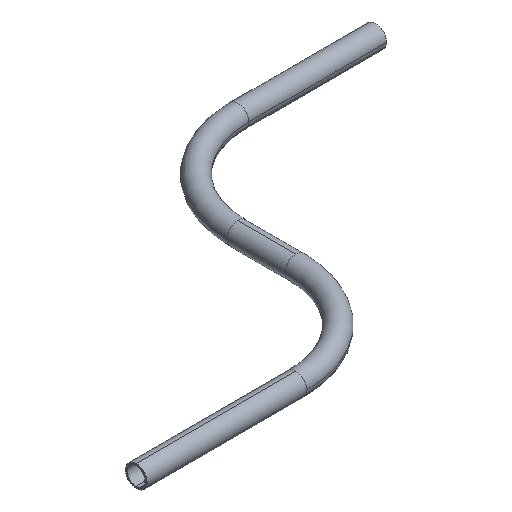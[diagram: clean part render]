
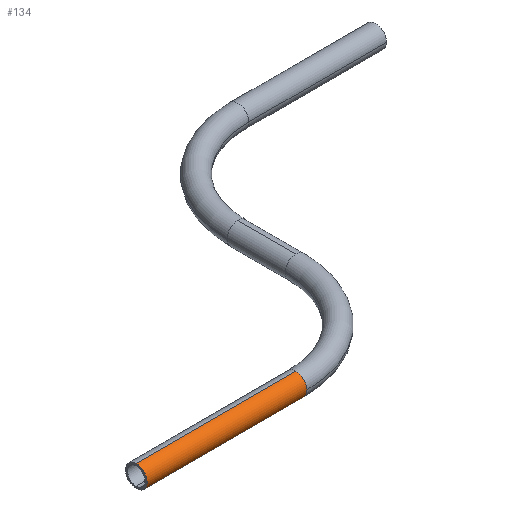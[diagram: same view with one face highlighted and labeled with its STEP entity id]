
A CAD part, isometric view. The second image highlights one B-rep face of the part: STEP entity #134.
In plain terms, the highlighted cylindrical face has radius 7.5 mm (diameter 15 mm), a partial arc.
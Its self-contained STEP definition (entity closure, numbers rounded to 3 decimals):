
#15 = DIRECTION ( 'NONE',  ( -1., 0., 0. ) ) ;
#28 = CARTESIAN_POINT ( 'NONE',  ( 110., 0., 7.5 ) ) ;
#31 = EDGE_CURVE ( 'NONE', #237, #202, #553, .T. ) ;
#33 = AXIS2_PLACEMENT_3D ( 'NONE', #296, #351, #153 ) ;
#41 = CARTESIAN_POINT ( 'NONE',  ( 110., 0., -7.5 ) ) ;
#89 = VERTEX_POINT ( 'NONE', #344 ) ;
#98 = EDGE_CURVE ( 'NONE', #237, #645, #100, .T. ) ;
#100 = CIRCLE ( 'NONE', #692, 7.5 ) ;
#105 = EDGE_CURVE ( 'NONE', #579, #89, #431, .T. ) ;
#121 = ORIENTED_EDGE ( 'NONE', *, *, #105, .F. ) ;
#134 = ADVANCED_FACE ( 'NONE', ( #280 ), #519, .T. ) ;
#153 = DIRECTION ( 'NONE',  ( 0., 0., -1. ) ) ;
#165 = AXIS2_PLACEMENT_3D ( 'NONE', #559, #671, #711 ) ;
#194 = CIRCLE ( 'NONE', #33, 7.5 ) ;
#202 = VERTEX_POINT ( 'NONE', #765 ) ;
#212 = DIRECTION ( 'NONE',  ( 0., 0., -1. ) ) ;
#218 = ORIENTED_EDGE ( 'NONE', *, *, #31, .T. ) ;
#221 = CARTESIAN_POINT ( 'NONE',  ( 110., 0., 7.5 ) ) ;
#234 = AXIS2_PLACEMENT_3D ( 'NONE', #636, #630, #618 ) ;
#237 = VERTEX_POINT ( 'NONE', #28 ) ;
#280 = FACE_OUTER_BOUND ( 'NONE', #735, .T. ) ;
#296 = CARTESIAN_POINT ( 'NONE',  ( 110., 0., 0. ) ) ;
#344 = CARTESIAN_POINT ( 'NONE',  ( 0., 0., -7.5 ) ) ;
#347 = ORIENTED_EDGE ( 'NONE', *, *, #686, .F. ) ;
#348 = CIRCLE ( 'NONE', #234, 7.5 ) ;
#351 = DIRECTION ( 'NONE',  ( 1., 0., 0. ) ) ;
#411 = CARTESIAN_POINT ( 'NONE',  ( 110., 0., -7.5 ) ) ;
#431 = LINE ( 'NONE', #41, #475 ) ;
#475 = VECTOR ( 'NONE', #15, 1000. ) ;
#489 = DIRECTION ( 'NONE',  ( -1., 0., 0. ) ) ;
#497 = CARTESIAN_POINT ( 'NONE',  ( 110., -7.5, 0. ) ) ;
#519 = CYLINDRICAL_SURFACE ( 'NONE', #165, 7.5 ) ;
#553 = LINE ( 'NONE', #221, #712 ) ;
#559 = CARTESIAN_POINT ( 'NONE',  ( 110., 0., 0. ) ) ;
#571 = DIRECTION ( 'NONE',  ( 1., 0., 0. ) ) ;
#579 = VERTEX_POINT ( 'NONE', #411 ) ;
#611 = CARTESIAN_POINT ( 'NONE',  ( 110., 0., 0. ) ) ;
#618 = DIRECTION ( 'NONE',  ( 0., 0., -1. ) ) ;
#626 = ORIENTED_EDGE ( 'NONE', *, *, #98, .F. ) ;
#630 = DIRECTION ( 'NONE',  ( 1., 0., 0. ) ) ;
#636 = CARTESIAN_POINT ( 'NONE',  ( 0., 0., 0. ) ) ;
#645 = VERTEX_POINT ( 'NONE', #497 ) ;
#671 = DIRECTION ( 'NONE',  ( -1., 0., 0. ) ) ;
#686 = EDGE_CURVE ( 'NONE', #645, #579, #194, .T. ) ;
#692 = AXIS2_PLACEMENT_3D ( 'NONE', #611, #571, #212 ) ;
#711 = DIRECTION ( 'NONE',  ( 0., 0., 1. ) ) ;
#712 = VECTOR ( 'NONE', #489, 1000. ) ;
#735 = EDGE_LOOP ( 'NONE', ( #121, #347, #626, #218, #748 ) ) ;
#748 = ORIENTED_EDGE ( 'NONE', *, *, #752, .T. ) ;
#752 = EDGE_CURVE ( 'NONE', #202, #89, #348, .T. ) ;
#765 = CARTESIAN_POINT ( 'NONE',  ( 0., 0., 7.5 ) ) ;
